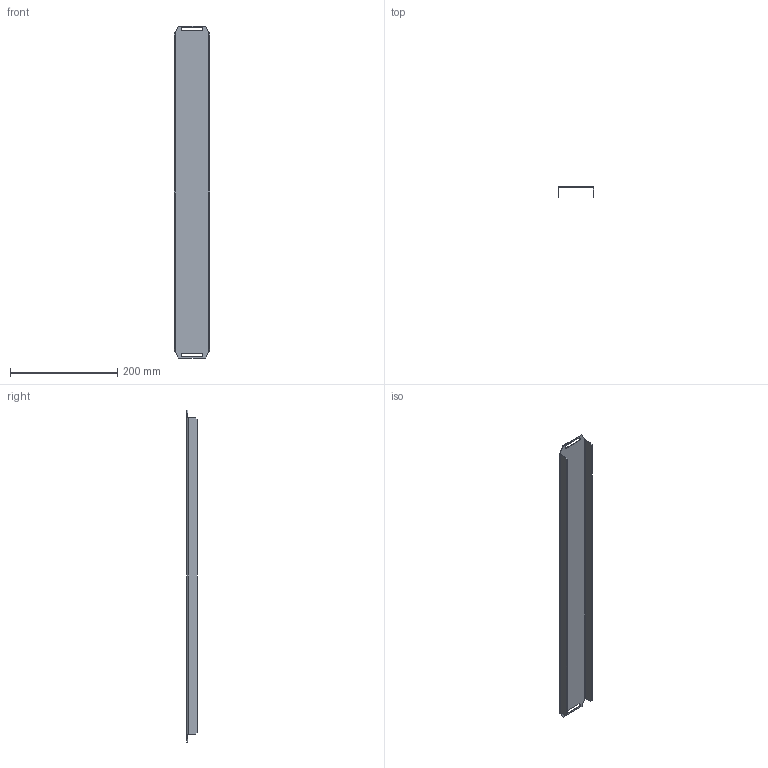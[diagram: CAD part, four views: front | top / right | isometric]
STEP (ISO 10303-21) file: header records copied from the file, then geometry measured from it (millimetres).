
FILE_DESCRIPTION (( 'STEP AP203' ), '1' );
FILE_NAME ('PKV 80 S Ïàíåëü ñòàöèîíàðíàÿ.STEP', '2021-05-17T06:29:45', ( '' ), ( '' ), 'SwSTEP 2.0', 'SolidWorks 2018', '' );
FILE_SCHEMA (( 'CONFIG_CONTROL_DESIGN' ));
Length unit declared in the file: millimetre
Products named in the file (1): PKV 80 S Ïàíåëü ñòàöèîíàðíàÿ
Bounding box: 67 x 19 x 620.5 mm (x, y, z)
Volume: 73116.2 mm3; surface area: 123762.6 mm2
Topology: 1 solids, 1 shells, 38 faces, 92 edges, 56 vertices
Faces by surface type: plane 26, cylinder 8, bspline 4
Entity records: 1281 total; most frequent: CARTESIAN_POINT 351, ORIENTED_EDGE 184, DIRECTION 154, EDGE_CURVE 92, LINE 68, VECTOR 68, VERTEX_POINT 56, AXIS2_PLACEMENT_3D 43
